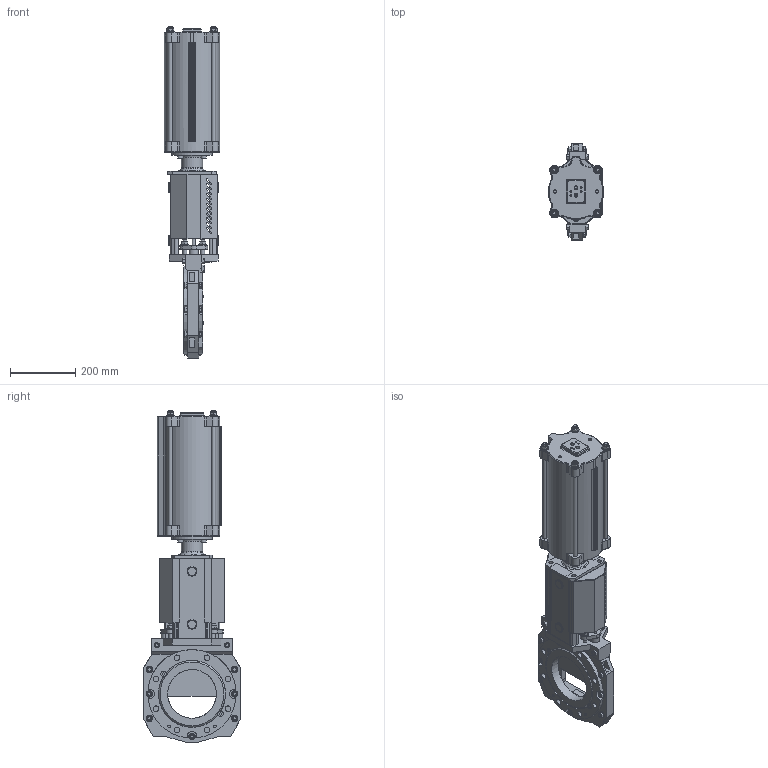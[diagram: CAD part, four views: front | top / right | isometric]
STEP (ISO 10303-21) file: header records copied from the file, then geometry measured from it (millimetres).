
FILE_DESCRIPTION(/* description */ (''),/* implementation_level */ '2;1');
FILE_NAME(/* name */ 'D:\step\DN150\RKO150-SC160-215.stp',/* time_stamp */ '2018-03-26T13:57:48+02:00',/* author */ ('jeseri'),/* organization */ (''),/* preprocessor_version */ 'ST-DEVELOPER v16.13',/* originating_system */ 'Autodesk Inventor 2018',/* authorisation */ '');
FILE_SCHEMA (('AUTOMOTIVE_DESIGN { 1 0 10303 214 3 1 1 }'));
Products named in the file (1): Assembly3_Shrinkwrap_1
Bounding box: 170 x 296 x 1021 mm (x, y, z)
Surface area: 1625010.8 mm2
Topology: 1 solids, 2 shells, 2215 faces, 5410 edges, 3316 vertices
Faces by surface type: plane 963, cylinder 518, cone 351, bspline 213, torus 114, sphere 56
Full cylindrical faces by diameter (mm): 3 x9, 4 x5, 4.134 x4, 4.917 x4, 8 x2, 8.376 x2, 8.5 x2, 9.5 x4, 9.87 x4, 10 x11, 10.25 x8, 11.445 x2, 12 x20, 13 x11, 15 x4, 15.835 x2, 16 x6, 17.5 x16, 17.7 x1, 18 x6, 19.715 x16, 20 x1, 24 x8, 27 x4, 30 x6, 30.1 x2, 34 x1, 35 x2, 36 x1, 36.4 x1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
Entity records: 72263 total; most frequent: CARTESIAN_POINT 20924, DIRECTION 10214, ORIENTED_EDGE 9982, EDGE_CURVE 4991, AXIS2_PLACEMENT_3D 4073, VERTEX_POINT 3231, EDGE_LOOP 2794, STYLED_ITEM 2216
